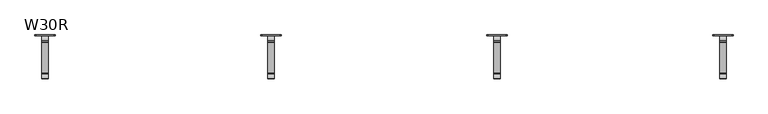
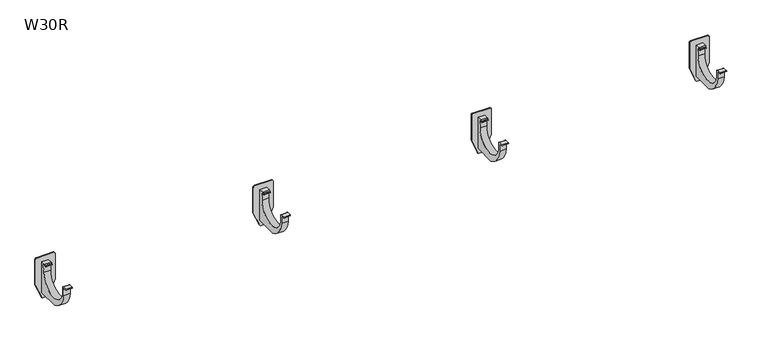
"""IFC4 building model written with IfcOpenShell, lengths in millimetres: proxy geometry, W30R Profil okapowy prosty z rynną : W30R."""

from ifc_helpers import new_model, si_unit, frame, origin, place, context, project, spatial, polyline, circle_curve, source, transform, mapped, element, save
from ifc_brep_helpers import plane_surface, cylinder_surface, revolved_surface, advanced_brep


def w30r_bc3f7cf0(model_context):
    return source(origin(), model_context, "Body", "AdvancedBrep", [
        advanced_brep(
        [(2806.4889281, -43.253125, -67.3579557), (2806.4889281, 31.746875, -67.3579557), (2806.4889281, 33.746875, -48.4650699), (2806.4889281, 28.3326614, -49.0508489), (2806.4889281, 26.9184479, -50.4650625), (2806.4889281, 25.5042343, -49.0508489), (2806.4889281, 26.9184479, -47.6366354), (2806.4889281, 29.746875, -46.4650625), (2806.4889281, 39.746875, -46.4650625), (2806.4889281, 39.746875, -121.4650625), (2806.4889281, -11.253125, -121.4654849), (2806.4889281, -45.753125, -76.6748546), (2806.4889281, -45.753125, -62.0548341), (2806.4889281, -45.753125, -58.4654849), (2806.4889281, -54.253125, -58.4654849), (2806.4889281, -54.253125, -56.4654849), (2806.4889281, -44.253125, -56.4654849), (2806.4889281, -43.253125, -57.4654849), (2821.4889281, -43.253125, -67.3579557), (2821.4889281, -43.253125, -57.4654849), (2821.4889281, -44.253125, -56.4654849), (2821.4889281, -54.253125, -56.4654849), (2821.4889281, -54.253125, -58.4654849), (2821.4889281, -45.753125, -58.4654849), (2821.4889281, -45.753125, -62.0548341), (2821.4889281, -45.753125, -76.6748546), (2821.4889281, -11.253125, -121.4654849), (2821.4889281, 39.746875, -121.4650625), (2821.4889281, 39.746875, -46.4650625), (2821.4889281, 29.746875, -46.4650625), (2821.4889281, 26.9184479, -47.6366354), (2821.4889281, 25.5042343, -49.0508489), (2821.4889281, 26.9184479, -50.4650625), (2821.4889281, 28.3326614, -49.0508489), (2821.4889281, 33.746875, -48.4650699), (2821.4889281, 31.746875, -67.3579557), (2833.4889281, 39.746875, -33.4650625), (2794.4889281, 39.746875, -33.4650625), (2791.4889281, 39.746875, -36.4650625), (2791.4889281, 39.746875, -98.4650625), (2805.7196973, 39.746875, -132.6189087), (2808.4889281, 39.746875, -134.4650625), (2819.4889281, 39.746875, -134.4650625), (2822.2581588, 39.746875, -132.6189087), (2836.4889281, 39.746875, -98.4650625), (2836.4889281, 39.746875, -36.4650625), (2833.4889281, 41.746875, -33.4650625), (2836.4889281, 41.746875, -36.4650625), (2836.4889281, 41.746875, -98.4650625), (2822.2581588, 41.746875, -132.6189087), (2819.4889281, 41.746875, -134.4650625), (2808.4889281, 41.746875, -134.4650625), (2805.7196973, 41.746875, -132.6189087), (2791.4889281, 41.746875, -98.4650625), (2791.4889281, 41.746875, -36.4650625), (2794.4889281, 41.746875, -33.4650625)],
        [
            (0, 1, circle_curve(frame((2806.4889281, -5.753125, -67.3579557), z_axis=(1.0, 0.0, 0.0), x_axis=(0.0, -1.0, 0.0)), 37.5)),
            (1, 2),
            (2, 3, circle_curve(frame((2806.4889281, 32.9075381, -66.0213045), z_axis=(1.0, 0.0, 0.0), x_axis=(0.0, -1.0, 0.0)), 17.5762868)),
            (3, 4),
            (4, 5, circle_curve(frame((2806.4889281, 26.2113411, -49.7579557), z_axis=(-1.0, 0.0, 0.0), x_axis=(0.0, -1.0, 0.0)), 1.0)),
            (5, 6),
            (6, 7, circle_curve(frame((2806.4889281, 29.746875, -50.4650625), z_axis=(-1.0, 0.0, 0.0), x_axis=(0.0, -1.0, 0.0)), 4.0)),
            (7, 8),
            (8, 9),
            (9, 10),
            (10, 11, circle_curve(frame((2806.4889281, 6.9272146, -71.7799373), z_axis=(-1.0, 0.0, 0.0), x_axis=(0.0, -1.0, 0.0)), 52.9072622)),
            (11, 12),
            (12, 13),
            (13, 14),
            (14, 15, circle_curve(frame((2806.4889281, -54.253125, -57.4654849), z_axis=(-1.0, 0.0, 0.0), x_axis=(0.0, -1.0, 0.0)), 1.0)),
            (15, 16),
            (16, 17, circle_curve(frame((2806.4889281, -44.253125, -57.4654849), z_axis=(-1.0, 0.0, 0.0), x_axis=(0.0, -1.0, 0.0)), 1.0)),
            (17, 0),
            (18, 19),
            (19, 20, circle_curve(frame((2821.4889281, -44.253125, -57.4654849), z_axis=(1.0, 0.0, 0.0), x_axis=(0.0, -1.0, 0.0)), 1.0)),
            (20, 21),
            (21, 22, circle_curve(frame((2821.4889281, -54.253125, -57.4654849), z_axis=(1.0, 0.0, 0.0), x_axis=(0.0, -1.0, 0.0)), 1.0)),
            (22, 23),
            (23, 24),
            (24, 25),
            (25, 26, circle_curve(frame((2821.4889281, 6.9272146, -71.7799373), z_axis=(1.0, 0.0, 0.0), x_axis=(0.0, -1.0, 0.0)), 52.9072622)),
            (26, 27),
            (27, 28),
            (28, 29),
            (29, 30, circle_curve(frame((2821.4889281, 29.746875, -50.4650625), z_axis=(1.0, 0.0, 0.0), x_axis=(0.0, -1.0, 0.0)), 4.0)),
            (30, 31),
            (31, 32, circle_curve(frame((2821.4889281, 26.2113411, -49.7579557), z_axis=(1.0, 0.0, 0.0), x_axis=(0.0, -1.0, 0.0)), 1.0)),
            (32, 33),
            (33, 34, circle_curve(frame((2821.4889281, 32.9075381, -66.0213045), z_axis=(-1.0, 0.0, 0.0), x_axis=(0.0, -1.0, 0.0)), 17.5762868)),
            (34, 35),
            (35, 18, circle_curve(frame((2821.4889281, -5.753125, -67.3579557), z_axis=(-1.0, 0.0, 0.0), x_axis=(0.0, -1.0, 0.0)), 37.5)),
            (17, 19),
            (18, 0),
            (16, 20),
            (15, 21),
            (14, 22),
            (13, 23),
            (12, 24),
            (11, 25),
            (10, 26),
            (9, 27),
            (7, 29),
            (28, 8),
            (6, 30),
            (5, 31),
            (4, 32),
            (3, 33),
            (2, 34),
            (1, 35),
            (36, 37),
            (37, 38, circle_curve(frame((2794.4889281, 39.746875, -36.4650625), z_axis=(0.0, -1.0, 0.0), x_axis=(1.0, 0.0, 0.0)), 3.0)),
            (38, 39),
            (39, 40),
            (40, 41, circle_curve(frame((2808.4889281, 39.746875, -131.4650625), z_axis=(0.0, -1.0, 0.0), x_axis=(1.0, 0.0, 0.0)), 3.0)),
            (41, 42),
            (42, 43, circle_curve(frame((2819.4889281, 39.746875, -131.4650625), z_axis=(0.0, -1.0, 0.0), x_axis=(1.0, 0.0, 0.0)), 3.0)),
            (43, 44),
            (44, 45),
            (45, 36, circle_curve(frame((2833.4889281, 39.746875, -36.4650625), z_axis=(0.0, -1.0, 0.0), x_axis=(1.0, 0.0, 0.0)), 3.0)),
            (46, 47, circle_curve(frame((2833.4889281, 41.746875, -36.4650625), z_axis=(0.0, 1.0, 0.0), x_axis=(1.0, 0.0, 0.0)), 3.0)),
            (47, 48),
            (48, 49),
            (49, 50, circle_curve(frame((2819.4889281, 41.746875, -131.4650625), z_axis=(0.0, 1.0, 0.0), x_axis=(1.0, 0.0, 0.0)), 3.0)),
            (50, 51),
            (51, 52, circle_curve(frame((2808.4889281, 41.746875, -131.4650625), z_axis=(0.0, 1.0, 0.0), x_axis=(1.0, 0.0, 0.0)), 3.0)),
            (52, 53),
            (53, 54),
            (54, 55, circle_curve(frame((2794.4889281, 41.746875, -36.4650625), z_axis=(0.0, 1.0, 0.0), x_axis=(1.0, 0.0, 0.0)), 3.0)),
            (55, 46),
            (36, 46),
            (55, 37),
            (54, 38),
            (53, 39),
            (52, 40),
            (51, 41),
            (50, 42),
            (49, 43),
            (48, 44),
            (47, 45),
        ],
        [
            plane_surface(frame((2806.4889281, -43.253125, -57.4654849), z_axis=(-1.0, 0.0, 0.0), x_axis=(0.0, 0.0, -1.0))),
            plane_surface(frame((2821.4889281, -43.253125, -57.4654849), z_axis=(1.0, 0.0, 0.0), x_axis=(0.0, 0.0, 1.0))),
            plane_surface(frame((2821.4889281, -43.253125, -67.3579557), z_axis=(0.0, 1.0, 0.0), x_axis=(-1.0, 0.0, 0.0))),
            cylinder_surface(frame((2806.4889281, -44.253125, -57.4654849), z_axis=(1.0, 0.0, 0.0), x_axis=(0.0, -1.0, 0.0)), 1.0),
            plane_surface(frame((2821.4889281, -44.253125, -56.4654849), z_axis=(0.0, 0.0, 1.0), x_axis=(-1.0, 0.0, 0.0))),
            cylinder_surface(frame((2806.4889281, -54.253125, -57.4654849), z_axis=(1.0, 0.0, 0.0), x_axis=(0.0, -1.0, 0.0)), 1.0),
            plane_surface(frame((2821.4889281, -54.253125, -58.4654849), z_axis=(0.0, 0.0, -1.0), x_axis=(-1.0, 0.0, 0.0))),
            plane_surface(frame((2821.4889281, -45.753125, -58.4654849), z_axis=(0.0, -1.0, 0.0), x_axis=(-1.0, 0.0, 0.0))),
            plane_surface(frame((2821.4889281, -45.753125, -62.0548341), z_axis=(0.0, -1.0, 0.0), x_axis=(-1.0, 0.0, 0.0))),
            cylinder_surface(frame((2806.4889281, 6.9272146, -71.7799373), z_axis=(1.0, 0.0, 0.0), x_axis=(0.0, -1.0, 0.0)), 52.9072622),
            plane_surface(frame((2821.4889281, -11.253125, -121.4654849), z_axis=(0.0, 8.283194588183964e-06, -0.9999999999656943), x_axis=(-1.0, 0.0, 0.0))),
            plane_surface(frame((2821.4889281, 40.7901639, -46.4650625), z_axis=(0.0, 0.0, 1.0), x_axis=(-1.0, 0.0, 0.0))),
            cylinder_surface(frame((2806.4889281, 29.746875, -50.4650625), z_axis=(1.0, 0.0, 0.0), x_axis=(0.0, -1.0, 0.0)), 4.0),
            plane_surface(frame((2821.4889281, 26.9184479, -47.6366354), z_axis=(0.0, -0.7071067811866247, 0.7071067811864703), x_axis=(-1.0, 0.0, 0.0))),
            cylinder_surface(frame((2806.4889281, 26.2113411, -49.7579557), z_axis=(1.0, 0.0, 0.0), x_axis=(0.0, -1.0, 0.0)), 1.0),
            plane_surface(frame((2821.4889281, 26.9184479, -50.4650625), z_axis=(0.0, 0.7071067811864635, -0.7071067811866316), x_axis=(-1.0, 0.0, 0.0))),
            revolved_surface(polyline([(2806.4889281, 15.331251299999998, -66.0213045), (2821.4889281, 15.331251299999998, -66.0213045)]), (2806.4889281, 32.9075381, -66.0213045), (-1.0, 0.0, 0.0)),
            plane_surface(frame((2821.4889281, 33.746875, -48.4650699), z_axis=(0.0, -0.9944434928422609, 0.10527174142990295), x_axis=(-1.0, 0.0, 0.0))),
            revolved_surface(polyline([(2806.4889281, -43.253125, -67.3579557), (2821.4889281, -43.253125, -67.3579557)]), (2806.4889281, -5.753125, -67.3579557), (-1.0, 0.0, 0.0)),
            plane_surface(frame((2794.4889281, 39.746875, -33.4650625), z_axis=(0.0, -1.0, 0.0), x_axis=(-1.0, 0.0, 0.0))),
            plane_surface(frame((2794.4889281, 41.746875, -33.4650625), z_axis=(0.0, 1.0, 0.0), x_axis=(1.0, 0.0, 0.0))),
            plane_surface(frame((2833.4889281, 39.746875, -33.4650625), z_axis=(0.0, 0.0, 1.0), x_axis=(0.0, 1.0, 0.0))),
            cylinder_surface(frame((2794.4889281, 41.746875, -36.4650625), z_axis=(0.0, -1.0, 0.0), x_axis=(1.0, 0.0, 0.0)), 3.0),
            plane_surface(frame((2791.4889281, 39.746875, -36.4650625), z_axis=(-1.0, 0.0, 0.0), x_axis=(0.0, 1.0, 0.0))),
            plane_surface(frame((2791.4889281, 39.746875, -98.4650625), z_axis=(-0.9230769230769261, 0.0, -0.38461538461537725), x_axis=(0.0, 1.0, 0.0))),
            cylinder_surface(frame((2808.4889281, 41.746875, -131.4650625), z_axis=(0.0, -1.0, 0.0), x_axis=(1.0, 0.0, 0.0)), 3.0),
            plane_surface(frame((2808.4889281, 39.746875, -134.4650625), z_axis=(0.0, 0.0, -1.0), x_axis=(0.0, 1.0, 0.0))),
            cylinder_surface(frame((2819.4889281, 41.746875, -131.4650625), z_axis=(0.0, -1.0, 0.0), x_axis=(1.0, 0.0, 0.0)), 3.0),
            plane_surface(frame((2822.2581588, 39.746875, -132.6189087), z_axis=(0.9230769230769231, 0.0, -0.3846153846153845), x_axis=(0.0, 1.0, 0.0))),
            plane_surface(frame((2836.4889281, 39.746875, -98.4650625), z_axis=(1.0, 0.0, 0.0), x_axis=(0.0, 1.0, 0.0))),
            cylinder_surface(frame((2833.4889281, 41.746875, -36.4650625), z_axis=(0.0, -1.0, 0.0), x_axis=(1.0, 0.0, 0.0)), 3.0),
        ],
        [
            (0, [[1, 2, 3, 4, 5, 6, 7, 8, 9, 10, 11, 12, 13, 14, 15, 16, 17, 18]]),
            (1, [[19, 20, 21, 22, 23, 24, 25, 26, 27, 28, 29, 30, 31, 32, 33, 34, 35, 36]]),
            (2, [[-18, 37, -19, 38]]),
            (3, [[-17, 39, -20, -37]]),
            (4, [[-16, 40, -21, -39]]),
            (5, [[-15, 41, -22, -40]]),
            (6, [[-14, 42, -23, -41]]),
            (7, [[-13, 43, -24, -42]]),
            (8, [[-12, 44, -25, -43]]),
            (9, [[-11, 45, -26, -44]]),
            (10, [[-45, -10, 46, -27]]),
            (11, [[47, -29, 48, -8]]),
            (12, [[-7, 49, -30, -47]]),
            (13, [[-6, 50, -31, -49]]),
            (14, [[-5, 51, -32, -50]]),
            (15, [[-4, 52, -33, -51]]),
            (16, [[-3, 53, -34, -52]]),
            (17, [[-2, 54, -35, -53]]),
            (18, [[-1, -38, -36, -54]]),
            (19, [[55, 56, 57, 58, 59, 60, 61, 62, 63, 64], [-9, -48, -28, -46]]),
            (20, [[65, 66, 67, 68, 69, 70, 71, 72, 73, 74]]),
            (21, [[-55, 75, -74, 76]]),
            (22, [[-56, -76, -73, 77]]),
            (23, [[-57, -77, -72, 78]]),
            (24, [[-58, -78, -71, 79]]),
            (25, [[-59, -79, -70, 80]]),
            (26, [[-60, -80, -69, 81]]),
            (27, [[-61, -81, -68, 82]]),
            (28, [[-62, -82, -67, 83]]),
            (29, [[-63, -83, -66, 84]]),
            (30, [[-64, -84, -65, -75]]),
        ],
    ),
        advanced_brep(
        [(2306.4889281, -43.253125, -67.3579557), (2306.4889281, 31.746875, -67.3579557), (2306.4889281, 33.746875, -48.4650699), (2306.4889281, 28.3326614, -49.0508489), (2306.4889281, 26.9184479, -50.4650625), (2306.4889281, 25.5042343, -49.0508489), (2306.4889281, 26.9184479, -47.6366354), (2306.4889281, 29.746875, -46.4650625), (2306.4889281, 39.746875, -46.4650625), (2306.4889281, 39.746875, -121.4650625), (2306.4889281, -11.253125, -121.4654849), (2306.4889281, -45.753125, -76.6748546), (2306.4889281, -45.753125, -62.0548341), (2306.4889281, -45.753125, -58.4654849), (2306.4889281, -54.253125, -58.4654849), (2306.4889281, -54.253125, -56.4654849), (2306.4889281, -44.253125, -56.4654849), (2306.4889281, -43.253125, -57.4654849), (2321.4889281, -43.253125, -67.3579557), (2321.4889281, -43.253125, -57.4654849), (2321.4889281, -44.253125, -56.4654849), (2321.4889281, -54.253125, -56.4654849), (2321.4889281, -54.253125, -58.4654849), (2321.4889281, -45.753125, -58.4654849), (2321.4889281, -45.753125, -62.0548341), (2321.4889281, -45.753125, -76.6748546), (2321.4889281, -11.253125, -121.4654849), (2321.4889281, 39.746875, -121.4650625), (2321.4889281, 39.746875, -46.4650625), (2321.4889281, 29.746875, -46.4650625), (2321.4889281, 26.9184479, -47.6366354), (2321.4889281, 25.5042343, -49.0508489), (2321.4889281, 26.9184479, -50.4650625), (2321.4889281, 28.3326614, -49.0508489), (2321.4889281, 33.746875, -48.4650699), (2321.4889281, 31.746875, -67.3579557), (2333.4889281, 39.746875, -33.4650625), (2294.4889281, 39.746875, -33.4650625), (2291.4889281, 39.746875, -36.4650625), (2291.4889281, 39.746875, -98.4650625), (2305.7196973, 39.746875, -132.6189087), (2308.4889281, 39.746875, -134.4650625), (2319.4889281, 39.746875, -134.4650625), (2322.2581588, 39.746875, -132.6189087), (2336.4889281, 39.746875, -98.4650625), (2336.4889281, 39.746875, -36.4650625), (2333.4889281, 41.746875, -33.4650625), (2336.4889281, 41.746875, -36.4650625), (2336.4889281, 41.746875, -98.4650625), (2322.2581588, 41.746875, -132.6189087), (2319.4889281, 41.746875, -134.4650625), (2308.4889281, 41.746875, -134.4650625), (2305.7196973, 41.746875, -132.6189087), (2291.4889281, 41.746875, -98.4650625), (2291.4889281, 41.746875, -36.4650625), (2294.4889281, 41.746875, -33.4650625)],
        [
            (0, 1, circle_curve(frame((2306.4889281, -5.753125, -67.3579557), z_axis=(1.0, 0.0, 0.0), x_axis=(0.0, -1.0, 0.0)), 37.5)),
            (1, 2),
            (2, 3, circle_curve(frame((2306.4889281, 32.9075381, -66.0213045), z_axis=(1.0, 0.0, 0.0), x_axis=(0.0, -1.0, 0.0)), 17.5762868)),
            (3, 4),
            (4, 5, circle_curve(frame((2306.4889281, 26.2113411, -49.7579557), z_axis=(-1.0, 0.0, 0.0), x_axis=(0.0, -1.0, 0.0)), 1.0)),
            (5, 6),
            (6, 7, circle_curve(frame((2306.4889281, 29.746875, -50.4650625), z_axis=(-1.0, 0.0, 0.0), x_axis=(0.0, -1.0, 0.0)), 4.0)),
            (7, 8),
            (8, 9),
            (9, 10),
            (10, 11, circle_curve(frame((2306.4889281, 6.9272146, -71.7799373), z_axis=(-1.0, 0.0, 0.0), x_axis=(0.0, -1.0, 0.0)), 52.9072622)),
            (11, 12),
            (12, 13),
            (13, 14),
            (14, 15, circle_curve(frame((2306.4889281, -54.253125, -57.4654849), z_axis=(-1.0, 0.0, 0.0), x_axis=(0.0, -1.0, 0.0)), 1.0)),
            (15, 16),
            (16, 17, circle_curve(frame((2306.4889281, -44.253125, -57.4654849), z_axis=(-1.0, 0.0, 0.0), x_axis=(0.0, -1.0, 0.0)), 1.0)),
            (17, 0),
            (18, 19),
            (19, 20, circle_curve(frame((2321.4889281, -44.253125, -57.4654849), z_axis=(1.0, 0.0, 0.0), x_axis=(0.0, -1.0, 0.0)), 1.0)),
            (20, 21),
            (21, 22, circle_curve(frame((2321.4889281, -54.253125, -57.4654849), z_axis=(1.0, 0.0, 0.0), x_axis=(0.0, -1.0, 0.0)), 1.0)),
            (22, 23),
            (23, 24),
            (24, 25),
            (25, 26, circle_curve(frame((2321.4889281, 6.9272146, -71.7799373), z_axis=(1.0, 0.0, 0.0), x_axis=(0.0, -1.0, 0.0)), 52.9072622)),
            (26, 27),
            (27, 28),
            (28, 29),
            (29, 30, circle_curve(frame((2321.4889281, 29.746875, -50.4650625), z_axis=(1.0, 0.0, 0.0), x_axis=(0.0, -1.0, 0.0)), 4.0)),
            (30, 31),
            (31, 32, circle_curve(frame((2321.4889281, 26.2113411, -49.7579557), z_axis=(1.0, 0.0, 0.0), x_axis=(0.0, -1.0, 0.0)), 1.0)),
            (32, 33),
            (33, 34, circle_curve(frame((2321.4889281, 32.9075381, -66.0213045), z_axis=(-1.0, 0.0, 0.0), x_axis=(0.0, -1.0, 0.0)), 17.5762868)),
            (34, 35),
            (35, 18, circle_curve(frame((2321.4889281, -5.753125, -67.3579557), z_axis=(-1.0, 0.0, 0.0), x_axis=(0.0, -1.0, 0.0)), 37.5)),
            (17, 19),
            (18, 0),
            (16, 20),
            (15, 21),
            (14, 22),
            (13, 23),
            (12, 24),
            (11, 25),
            (10, 26),
            (9, 27),
            (7, 29),
            (28, 8),
            (6, 30),
            (5, 31),
            (4, 32),
            (3, 33),
            (2, 34),
            (1, 35),
            (36, 37),
            (37, 38, circle_curve(frame((2294.4889281, 39.746875, -36.4650625), z_axis=(0.0, -1.0, 0.0), x_axis=(1.0, 0.0, 0.0)), 3.0)),
            (38, 39),
            (39, 40),
            (40, 41, circle_curve(frame((2308.4889281, 39.746875, -131.4650625), z_axis=(0.0, -1.0, 0.0), x_axis=(1.0, 0.0, 0.0)), 3.0)),
            (41, 42),
            (42, 43, circle_curve(frame((2319.4889281, 39.746875, -131.4650625), z_axis=(0.0, -1.0, 0.0), x_axis=(1.0, 0.0, 0.0)), 3.0)),
            (43, 44),
            (44, 45),
            (45, 36, circle_curve(frame((2333.4889281, 39.746875, -36.4650625), z_axis=(0.0, -1.0, 0.0), x_axis=(1.0, 0.0, 0.0)), 3.0)),
            (46, 47, circle_curve(frame((2333.4889281, 41.746875, -36.4650625), z_axis=(0.0, 1.0, 0.0), x_axis=(1.0, 0.0, 0.0)), 3.0)),
            (47, 48),
            (48, 49),
            (49, 50, circle_curve(frame((2319.4889281, 41.746875, -131.4650625), z_axis=(0.0, 1.0, 0.0), x_axis=(1.0, 0.0, 0.0)), 3.0)),
            (50, 51),
            (51, 52, circle_curve(frame((2308.4889281, 41.746875, -131.4650625), z_axis=(0.0, 1.0, 0.0), x_axis=(1.0, 0.0, 0.0)), 3.0)),
            (52, 53),
            (53, 54),
            (54, 55, circle_curve(frame((2294.4889281, 41.746875, -36.4650625), z_axis=(0.0, 1.0, 0.0), x_axis=(1.0, 0.0, 0.0)), 3.0)),
            (55, 46),
            (36, 46),
            (55, 37),
            (54, 38),
            (53, 39),
            (52, 40),
            (51, 41),
            (50, 42),
            (49, 43),
            (48, 44),
            (47, 45),
        ],
        [
            plane_surface(frame((2306.4889281, -43.253125, -57.4654849), z_axis=(-1.0, 0.0, 0.0), x_axis=(0.0, 0.0, -1.0))),
            plane_surface(frame((2321.4889281, -43.253125, -57.4654849), z_axis=(1.0, 0.0, 0.0), x_axis=(0.0, 0.0, 1.0))),
            plane_surface(frame((2321.4889281, -43.253125, -67.3579557), z_axis=(0.0, 1.0, 0.0), x_axis=(-1.0, 0.0, 0.0))),
            cylinder_surface(frame((2306.4889281, -44.253125, -57.4654849), z_axis=(1.0, 0.0, 0.0), x_axis=(0.0, -1.0, 0.0)), 1.0),
            plane_surface(frame((2321.4889281, -44.253125, -56.4654849), z_axis=(0.0, 0.0, 1.0), x_axis=(-1.0, 0.0, 0.0))),
            cylinder_surface(frame((2306.4889281, -54.253125, -57.4654849), z_axis=(1.0, 0.0, 0.0), x_axis=(0.0, -1.0, 0.0)), 1.0),
            plane_surface(frame((2321.4889281, -54.253125, -58.4654849), z_axis=(0.0, 0.0, -1.0), x_axis=(-1.0, 0.0, 0.0))),
            plane_surface(frame((2321.4889281, -45.753125, -58.4654849), z_axis=(0.0, -1.0, 0.0), x_axis=(-1.0, 0.0, 0.0))),
            plane_surface(frame((2321.4889281, -45.753125, -62.0548341), z_axis=(0.0, -1.0, 0.0), x_axis=(-1.0, 0.0, 0.0))),
            cylinder_surface(frame((2306.4889281, 6.9272146, -71.7799373), z_axis=(1.0, 0.0, 0.0), x_axis=(0.0, -1.0, 0.0)), 52.9072622),
            plane_surface(frame((2321.4889281, -11.253125, -121.4654849), z_axis=(0.0, 8.283194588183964e-06, -0.9999999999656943), x_axis=(-1.0, 0.0, 0.0))),
            plane_surface(frame((2321.4889281, 40.7901639, -46.4650625), z_axis=(0.0, 0.0, 1.0), x_axis=(-1.0, 0.0, 0.0))),
            cylinder_surface(frame((2306.4889281, 29.746875, -50.4650625), z_axis=(1.0, 0.0, 0.0), x_axis=(0.0, -1.0, 0.0)), 4.0),
            plane_surface(frame((2321.4889281, 26.9184479, -47.6366354), z_axis=(0.0, -0.7071067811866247, 0.7071067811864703), x_axis=(-1.0, 0.0, 0.0))),
            cylinder_surface(frame((2306.4889281, 26.2113411, -49.7579557), z_axis=(1.0, 0.0, 0.0), x_axis=(0.0, -1.0, 0.0)), 1.0),
            plane_surface(frame((2321.4889281, 26.9184479, -50.4650625), z_axis=(0.0, 0.7071067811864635, -0.7071067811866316), x_axis=(-1.0, 0.0, 0.0))),
            revolved_surface(polyline([(2306.4889281, 15.331251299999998, -66.0213045), (2321.4889281, 15.331251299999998, -66.0213045)]), (2306.4889281, 32.9075381, -66.0213045), (-1.0, 0.0, 0.0)),
            plane_surface(frame((2321.4889281, 33.746875, -48.4650699), z_axis=(0.0, -0.9944434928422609, 0.10527174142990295), x_axis=(-1.0, 0.0, 0.0))),
            revolved_surface(polyline([(2306.4889281, -43.253125, -67.3579557), (2321.4889281, -43.253125, -67.3579557)]), (2306.4889281, -5.753125, -67.3579557), (-1.0, 0.0, 0.0)),
            plane_surface(frame((2294.4889281, 39.746875, -33.4650625), z_axis=(0.0, -1.0, 0.0), x_axis=(-1.0, 0.0, 0.0))),
            plane_surface(frame((2294.4889281, 41.746875, -33.4650625), z_axis=(0.0, 1.0, 0.0), x_axis=(1.0, 0.0, 0.0))),
            plane_surface(frame((2333.4889281, 39.746875, -33.4650625), z_axis=(0.0, 0.0, 1.0), x_axis=(0.0, 1.0, 0.0))),
            cylinder_surface(frame((2294.4889281, 41.746875, -36.4650625), z_axis=(0.0, -1.0, 0.0), x_axis=(1.0, 0.0, 0.0)), 3.0),
            plane_surface(frame((2291.4889281, 39.746875, -36.4650625), z_axis=(-1.0, 0.0, 0.0), x_axis=(0.0, 1.0, 0.0))),
            plane_surface(frame((2291.4889281, 39.746875, -98.4650625), z_axis=(-0.9230769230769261, 0.0, -0.38461538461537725), x_axis=(0.0, 1.0, 0.0))),
            cylinder_surface(frame((2308.4889281, 41.746875, -131.4650625), z_axis=(0.0, -1.0, 0.0), x_axis=(1.0, 0.0, 0.0)), 3.0),
            plane_surface(frame((2308.4889281, 39.746875, -134.4650625), z_axis=(0.0, 0.0, -1.0), x_axis=(0.0, 1.0, 0.0))),
            cylinder_surface(frame((2319.4889281, 41.746875, -131.4650625), z_axis=(0.0, -1.0, 0.0), x_axis=(1.0, 0.0, 0.0)), 3.0),
            plane_surface(frame((2322.2581588, 39.746875, -132.6189087), z_axis=(0.9230769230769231, 0.0, -0.3846153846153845), x_axis=(0.0, 1.0, 0.0))),
            plane_surface(frame((2336.4889281, 39.746875, -98.4650625), z_axis=(1.0, 0.0, 0.0), x_axis=(0.0, 1.0, 0.0))),
            cylinder_surface(frame((2333.4889281, 41.746875, -36.4650625), z_axis=(0.0, -1.0, 0.0), x_axis=(1.0, 0.0, 0.0)), 3.0),
        ],
        [
            (0, [[1, 2, 3, 4, 5, 6, 7, 8, 9, 10, 11, 12, 13, 14, 15, 16, 17, 18]]),
            (1, [[19, 20, 21, 22, 23, 24, 25, 26, 27, 28, 29, 30, 31, 32, 33, 34, 35, 36]]),
            (2, [[-18, 37, -19, 38]]),
            (3, [[-17, 39, -20, -37]]),
            (4, [[-16, 40, -21, -39]]),
            (5, [[-15, 41, -22, -40]]),
            (6, [[-14, 42, -23, -41]]),
            (7, [[-13, 43, -24, -42]]),
            (8, [[-12, 44, -25, -43]]),
            (9, [[-11, 45, -26, -44]]),
            (10, [[-45, -10, 46, -27]]),
            (11, [[47, -29, 48, -8]]),
            (12, [[-7, 49, -30, -47]]),
            (13, [[-6, 50, -31, -49]]),
            (14, [[-5, 51, -32, -50]]),
            (15, [[-4, 52, -33, -51]]),
            (16, [[-3, 53, -34, -52]]),
            (17, [[-2, 54, -35, -53]]),
            (18, [[-1, -38, -36, -54]]),
            (19, [[55, 56, 57, 58, 59, 60, 61, 62, 63, 64], [-9, -48, -28, -46]]),
            (20, [[65, 66, 67, 68, 69, 70, 71, 72, 73, 74]]),
            (21, [[-55, 75, -74, 76]]),
            (22, [[-56, -76, -73, 77]]),
            (23, [[-57, -77, -72, 78]]),
            (24, [[-58, -78, -71, 79]]),
            (25, [[-59, -79, -70, 80]]),
            (26, [[-60, -80, -69, 81]]),
            (27, [[-61, -81, -68, 82]]),
            (28, [[-62, -82, -67, 83]]),
            (29, [[-63, -83, -66, 84]]),
            (30, [[-64, -84, -65, -75]]),
        ],
    ),
        advanced_brep(
        [(1806.4889281, -43.253125, -67.3579557), (1806.4889281, 31.746875, -67.3579557), (1806.4889281, 33.746875, -48.4650699), (1806.4889281, 28.3326614, -49.0508489), (1806.4889281, 26.9184479, -50.4650625), (1806.4889281, 25.5042343, -49.0508489), (1806.4889281, 26.9184479, -47.6366354), (1806.4889281, 29.746875, -46.4650625), (1806.4889281, 39.746875, -46.4650625), (1806.4889281, 39.746875, -121.4650625), (1806.4889281, -11.253125, -121.4654849), (1806.4889281, -45.753125, -76.6748546), (1806.4889281, -45.753125, -62.0548341), (1806.4889281, -45.753125, -58.4654849), (1806.4889281, -54.253125, -58.4654849), (1806.4889281, -54.253125, -56.4654849), (1806.4889281, -44.253125, -56.4654849), (1806.4889281, -43.253125, -57.4654849), (1821.4889281, -43.253125, -67.3579557), (1821.4889281, -43.253125, -57.4654849), (1821.4889281, -44.253125, -56.4654849), (1821.4889281, -54.253125, -56.4654849), (1821.4889281, -54.253125, -58.4654849), (1821.4889281, -45.753125, -58.4654849), (1821.4889281, -45.753125, -62.0548341), (1821.4889281, -45.753125, -76.6748546), (1821.4889281, -11.253125, -121.4654849), (1821.4889281, 39.746875, -121.4650625), (1821.4889281, 39.746875, -46.4650625), (1821.4889281, 29.746875, -46.4650625), (1821.4889281, 26.9184479, -47.6366354), (1821.4889281, 25.5042343, -49.0508489), (1821.4889281, 26.9184479, -50.4650625), (1821.4889281, 28.3326614, -49.0508489), (1821.4889281, 33.746875, -48.4650699), (1821.4889281, 31.746875, -67.3579557), (1833.4889281, 39.746875, -33.4650625), (1794.4889281, 39.746875, -33.4650625), (1791.4889281, 39.746875, -36.4650625), (1791.4889281, 39.746875, -98.4650625), (1805.7196973, 39.746875, -132.6189087), (1808.4889281, 39.746875, -134.4650625), (1819.4889281, 39.746875, -134.4650625), (1822.2581588, 39.746875, -132.6189087), (1836.4889281, 39.746875, -98.4650625), (1836.4889281, 39.746875, -36.4650625), (1833.4889281, 41.746875, -33.4650625), (1836.4889281, 41.746875, -36.4650625), (1836.4889281, 41.746875, -98.4650625), (1822.2581588, 41.746875, -132.6189087), (1819.4889281, 41.746875, -134.4650625), (1808.4889281, 41.746875, -134.4650625), (1805.7196973, 41.746875, -132.6189087), (1791.4889281, 41.746875, -98.4650625), (1791.4889281, 41.746875, -36.4650625), (1794.4889281, 41.746875, -33.4650625)],
        [
            (0, 1, circle_curve(frame((1806.4889281, -5.753125, -67.3579557), z_axis=(1.0, 0.0, 0.0), x_axis=(0.0, -1.0, 0.0)), 37.5)),
            (1, 2),
            (2, 3, circle_curve(frame((1806.4889281, 32.9075381, -66.0213045), z_axis=(1.0, 0.0, 0.0), x_axis=(0.0, -1.0, 0.0)), 17.5762868)),
            (3, 4),
            (4, 5, circle_curve(frame((1806.4889281, 26.2113411, -49.7579557), z_axis=(-1.0, 0.0, 0.0), x_axis=(0.0, -1.0, 0.0)), 1.0)),
            (5, 6),
            (6, 7, circle_curve(frame((1806.4889281, 29.746875, -50.4650625), z_axis=(-1.0, 0.0, 0.0), x_axis=(0.0, -1.0, 0.0)), 4.0)),
            (7, 8),
            (8, 9),
            (9, 10),
            (10, 11, circle_curve(frame((1806.4889281, 6.9272146, -71.7799373), z_axis=(-1.0, 0.0, 0.0), x_axis=(0.0, -1.0, 0.0)), 52.9072622)),
            (11, 12),
            (12, 13),
            (13, 14),
            (14, 15, circle_curve(frame((1806.4889281, -54.253125, -57.4654849), z_axis=(-1.0, 0.0, 0.0), x_axis=(0.0, -1.0, 0.0)), 1.0)),
            (15, 16),
            (16, 17, circle_curve(frame((1806.4889281, -44.253125, -57.4654849), z_axis=(-1.0, 0.0, 0.0), x_axis=(0.0, -1.0, 0.0)), 1.0)),
            (17, 0),
            (18, 19),
            (19, 20, circle_curve(frame((1821.4889281, -44.253125, -57.4654849), z_axis=(1.0, 0.0, 0.0), x_axis=(0.0, -1.0, 0.0)), 1.0)),
            (20, 21),
            (21, 22, circle_curve(frame((1821.4889281, -54.253125, -57.4654849), z_axis=(1.0, 0.0, 0.0), x_axis=(0.0, -1.0, 0.0)), 1.0)),
            (22, 23),
            (23, 24),
            (24, 25),
            (25, 26, circle_curve(frame((1821.4889281, 6.9272146, -71.7799373), z_axis=(1.0, 0.0, 0.0), x_axis=(0.0, -1.0, 0.0)), 52.9072622)),
            (26, 27),
            (27, 28),
            (28, 29),
            (29, 30, circle_curve(frame((1821.4889281, 29.746875, -50.4650625), z_axis=(1.0, 0.0, 0.0), x_axis=(0.0, -1.0, 0.0)), 4.0)),
            (30, 31),
            (31, 32, circle_curve(frame((1821.4889281, 26.2113411, -49.7579557), z_axis=(1.0, 0.0, 0.0), x_axis=(0.0, -1.0, 0.0)), 1.0)),
            (32, 33),
            (33, 34, circle_curve(frame((1821.4889281, 32.9075381, -66.0213045), z_axis=(-1.0, 0.0, 0.0), x_axis=(0.0, -1.0, 0.0)), 17.5762868)),
            (34, 35),
            (35, 18, circle_curve(frame((1821.4889281, -5.753125, -67.3579557), z_axis=(-1.0, 0.0, 0.0), x_axis=(0.0, -1.0, 0.0)), 37.5)),
            (17, 19),
            (18, 0),
            (16, 20),
            (15, 21),
            (14, 22),
            (13, 23),
            (12, 24),
            (11, 25),
            (10, 26),
            (9, 27),
            (7, 29),
            (28, 8),
            (6, 30),
            (5, 31),
            (4, 32),
            (3, 33),
            (2, 34),
            (1, 35),
            (36, 37),
            (37, 38, circle_curve(frame((1794.4889281, 39.746875, -36.4650625), z_axis=(0.0, -1.0, 0.0), x_axis=(1.0, 0.0, 0.0)), 3.0)),
            (38, 39),
            (39, 40),
            (40, 41, circle_curve(frame((1808.4889281, 39.746875, -131.4650625), z_axis=(0.0, -1.0, 0.0), x_axis=(1.0, 0.0, 0.0)), 3.0)),
            (41, 42),
            (42, 43, circle_curve(frame((1819.4889281, 39.746875, -131.4650625), z_axis=(0.0, -1.0, 0.0), x_axis=(1.0, 0.0, 0.0)), 3.0)),
            (43, 44),
            (44, 45),
            (45, 36, circle_curve(frame((1833.4889281, 39.746875, -36.4650625), z_axis=(0.0, -1.0, 0.0), x_axis=(1.0, 0.0, 0.0)), 3.0)),
            (46, 47, circle_curve(frame((1833.4889281, 41.746875, -36.4650625), z_axis=(0.0, 1.0, 0.0), x_axis=(1.0, 0.0, 0.0)), 3.0)),
            (47, 48),
            (48, 49),
            (49, 50, circle_curve(frame((1819.4889281, 41.746875, -131.4650625), z_axis=(0.0, 1.0, 0.0), x_axis=(1.0, 0.0, 0.0)), 3.0)),
            (50, 51),
            (51, 52, circle_curve(frame((1808.4889281, 41.746875, -131.4650625), z_axis=(0.0, 1.0, 0.0), x_axis=(1.0, 0.0, 0.0)), 3.0)),
            (52, 53),
            (53, 54),
            (54, 55, circle_curve(frame((1794.4889281, 41.746875, -36.4650625), z_axis=(0.0, 1.0, 0.0), x_axis=(1.0, 0.0, 0.0)), 3.0)),
            (55, 46),
            (36, 46),
            (55, 37),
            (54, 38),
            (53, 39),
            (52, 40),
            (51, 41),
            (50, 42),
            (49, 43),
            (48, 44),
            (47, 45),
        ],
        [
            plane_surface(frame((1806.4889281, -43.253125, -57.4654849), z_axis=(-1.0, 0.0, 0.0), x_axis=(0.0, 0.0, -1.0))),
            plane_surface(frame((1821.4889281, -43.253125, -57.4654849), z_axis=(1.0, 0.0, 0.0), x_axis=(0.0, 0.0, 1.0))),
            plane_surface(frame((1821.4889281, -43.253125, -67.3579557), z_axis=(0.0, 1.0, 0.0), x_axis=(-1.0, 0.0, 0.0))),
            cylinder_surface(frame((1806.4889281, -44.253125, -57.4654849), z_axis=(1.0, 0.0, 0.0), x_axis=(0.0, -1.0, 0.0)), 1.0),
            plane_surface(frame((1821.4889281, -44.253125, -56.4654849), z_axis=(0.0, 0.0, 1.0), x_axis=(-1.0, 0.0, 0.0))),
            cylinder_surface(frame((1806.4889281, -54.253125, -57.4654849), z_axis=(1.0, 0.0, 0.0), x_axis=(0.0, -1.0, 0.0)), 1.0),
            plane_surface(frame((1821.4889281, -54.253125, -58.4654849), z_axis=(0.0, 0.0, -1.0), x_axis=(-1.0, 0.0, 0.0))),
            plane_surface(frame((1821.4889281, -45.753125, -58.4654849), z_axis=(0.0, -1.0, 0.0), x_axis=(-1.0, 0.0, 0.0))),
            plane_surface(frame((1821.4889281, -45.753125, -62.0548341), z_axis=(0.0, -1.0, 0.0), x_axis=(-1.0, 0.0, 0.0))),
            cylinder_surface(frame((1806.4889281, 6.9272146, -71.7799373), z_axis=(1.0, 0.0, 0.0), x_axis=(0.0, -1.0, 0.0)), 52.9072622),
            plane_surface(frame((1821.4889281, -11.253125, -121.4654849), z_axis=(0.0, 8.283194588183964e-06, -0.9999999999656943), x_axis=(-1.0, 0.0, 0.0))),
            plane_surface(frame((1821.4889281, 40.7901639, -46.4650625), z_axis=(0.0, 0.0, 1.0), x_axis=(-1.0, 0.0, 0.0))),
            cylinder_surface(frame((1806.4889281, 29.746875, -50.4650625), z_axis=(1.0, 0.0, 0.0), x_axis=(0.0, -1.0, 0.0)), 4.0),
            plane_surface(frame((1821.4889281, 26.9184479, -47.6366354), z_axis=(0.0, -0.7071067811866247, 0.7071067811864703), x_axis=(-1.0, 0.0, 0.0))),
            cylinder_surface(frame((1806.4889281, 26.2113411, -49.7579557), z_axis=(1.0, 0.0, 0.0), x_axis=(0.0, -1.0, 0.0)), 1.0),
            plane_surface(frame((1821.4889281, 26.9184479, -50.4650625), z_axis=(0.0, 0.7071067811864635, -0.7071067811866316), x_axis=(-1.0, 0.0, 0.0))),
            revolved_surface(polyline([(1806.4889281, 15.331251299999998, -66.0213045), (1821.4889281, 15.331251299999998, -66.0213045)]), (1806.4889281, 32.9075381, -66.0213045), (-1.0, 0.0, 0.0)),
            plane_surface(frame((1821.4889281, 33.746875, -48.4650699), z_axis=(0.0, -0.9944434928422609, 0.10527174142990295), x_axis=(-1.0, 0.0, 0.0))),
            revolved_surface(polyline([(1806.4889281, -43.253125, -67.3579557), (1821.4889281, -43.253125, -67.3579557)]), (1806.4889281, -5.753125, -67.3579557), (-1.0, 0.0, 0.0)),
            plane_surface(frame((1794.4889281, 39.746875, -33.4650625), z_axis=(0.0, -1.0, 0.0), x_axis=(-1.0, 0.0, 0.0))),
            plane_surface(frame((1794.4889281, 41.746875, -33.4650625), z_axis=(0.0, 1.0, 0.0), x_axis=(1.0, 0.0, 0.0))),
            plane_surface(frame((1833.4889281, 39.746875, -33.4650625), z_axis=(0.0, 0.0, 1.0), x_axis=(0.0, 1.0, 0.0))),
            cylinder_surface(frame((1794.4889281, 41.746875, -36.4650625), z_axis=(0.0, -1.0, 0.0), x_axis=(1.0, 0.0, 0.0)), 3.0),
            plane_surface(frame((1791.4889281, 39.746875, -36.4650625), z_axis=(-1.0, 0.0, 0.0), x_axis=(0.0, 1.0, 0.0))),
            plane_surface(frame((1791.4889281, 39.746875, -98.4650625), z_axis=(-0.9230769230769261, 0.0, -0.38461538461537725), x_axis=(0.0, 1.0, 0.0))),
            cylinder_surface(frame((1808.4889281, 41.746875, -131.4650625), z_axis=(0.0, -1.0, 0.0), x_axis=(1.0, 0.0, 0.0)), 3.0),
            plane_surface(frame((1808.4889281, 39.746875, -134.4650625), z_axis=(0.0, 0.0, -1.0), x_axis=(0.0, 1.0, 0.0))),
            cylinder_surface(frame((1819.4889281, 41.746875, -131.4650625), z_axis=(0.0, -1.0, 0.0), x_axis=(1.0, 0.0, 0.0)), 3.0),
            plane_surface(frame((1822.2581588, 39.746875, -132.6189087), z_axis=(0.9230769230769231, 0.0, -0.3846153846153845), x_axis=(0.0, 1.0, 0.0))),
            plane_surface(frame((1836.4889281, 39.746875, -98.4650625), z_axis=(1.0, 0.0, 0.0), x_axis=(0.0, 1.0, 0.0))),
            cylinder_surface(frame((1833.4889281, 41.746875, -36.4650625), z_axis=(0.0, -1.0, 0.0), x_axis=(1.0, 0.0, 0.0)), 3.0),
        ],
        [
            (0, [[1, 2, 3, 4, 5, 6, 7, 8, 9, 10, 11, 12, 13, 14, 15, 16, 17, 18]]),
            (1, [[19, 20, 21, 22, 23, 24, 25, 26, 27, 28, 29, 30, 31, 32, 33, 34, 35, 36]]),
            (2, [[-18, 37, -19, 38]]),
            (3, [[-17, 39, -20, -37]]),
            (4, [[-16, 40, -21, -39]]),
            (5, [[-15, 41, -22, -40]]),
            (6, [[-14, 42, -23, -41]]),
            (7, [[-13, 43, -24, -42]]),
            (8, [[-12, 44, -25, -43]]),
            (9, [[-11, 45, -26, -44]]),
            (10, [[-45, -10, 46, -27]]),
            (11, [[47, -29, 48, -8]]),
            (12, [[-7, 49, -30, -47]]),
            (13, [[-6, 50, -31, -49]]),
            (14, [[-5, 51, -32, -50]]),
            (15, [[-4, 52, -33, -51]]),
            (16, [[-3, 53, -34, -52]]),
            (17, [[-2, 54, -35, -53]]),
            (18, [[-1, -38, -36, -54]]),
            (19, [[55, 56, 57, 58, 59, 60, 61, 62, 63, 64], [-9, -48, -28, -46]]),
            (20, [[65, 66, 67, 68, 69, 70, 71, 72, 73, 74]]),
            (21, [[-55, 75, -74, 76]]),
            (22, [[-56, -76, -73, 77]]),
            (23, [[-57, -77, -72, 78]]),
            (24, [[-58, -78, -71, 79]]),
            (25, [[-59, -79, -70, 80]]),
            (26, [[-60, -80, -69, 81]]),
            (27, [[-61, -81, -68, 82]]),
            (28, [[-62, -82, -67, 83]]),
            (29, [[-63, -83, -66, 84]]),
            (30, [[-64, -84, -65, -75]]),
        ],
    ),
        advanced_brep(
        [(1306.4889281, -43.253125, -67.3579557), (1306.4889281, 31.746875, -67.3579557), (1306.4889281, 33.746875, -48.4650699), (1306.4889281, 28.3326614, -49.0508489), (1306.4889281, 26.9184479, -50.4650625), (1306.4889281, 25.5042343, -49.0508489), (1306.4889281, 26.9184479, -47.6366354), (1306.4889281, 29.746875, -46.4650625), (1306.4889281, 39.746875, -46.4650625), (1306.4889281, 39.746875, -121.4650625), (1306.4889281, -11.253125, -121.4654849), (1306.4889281, -45.753125, -76.6748546), (1306.4889281, -45.753125, -62.0548341), (1306.4889281, -45.753125, -58.4654849), (1306.4889281, -54.253125, -58.4654849), (1306.4889281, -54.253125, -56.4654849), (1306.4889281, -44.253125, -56.4654849), (1306.4889281, -43.253125, -57.4654849), (1321.4889281, -43.253125, -67.3579557), (1321.4889281, -43.253125, -57.4654849), (1321.4889281, -44.253125, -56.4654849), (1321.4889281, -54.253125, -56.4654849), (1321.4889281, -54.253125, -58.4654849), (1321.4889281, -45.753125, -58.4654849), (1321.4889281, -45.753125, -62.0548341), (1321.4889281, -45.753125, -76.6748546), (1321.4889281, -11.253125, -121.4654849), (1321.4889281, 39.746875, -121.4650625), (1321.4889281, 39.746875, -46.4650625), (1321.4889281, 29.746875, -46.4650625), (1321.4889281, 26.9184479, -47.6366354), (1321.4889281, 25.5042343, -49.0508489), (1321.4889281, 26.9184479, -50.4650625), (1321.4889281, 28.3326614, -49.0508489), (1321.4889281, 33.746875, -48.4650699), (1321.4889281, 31.746875, -67.3579557), (1333.4889281, 39.746875, -33.4650625), (1294.4889281, 39.746875, -33.4650625), (1291.4889281, 39.746875, -36.4650625), (1291.4889281, 39.746875, -98.4650625), (1305.7196973, 39.746875, -132.6189087), (1308.4889281, 39.746875, -134.4650625), (1319.4889281, 39.746875, -134.4650625), (1322.2581588, 39.746875, -132.6189087), (1336.4889281, 39.746875, -98.4650625), (1336.4889281, 39.746875, -36.4650625), (1333.4889281, 41.746875, -33.4650625), (1336.4889281, 41.746875, -36.4650625), (1336.4889281, 41.746875, -98.4650625), (1322.2581588, 41.746875, -132.6189087), (1319.4889281, 41.746875, -134.4650625), (1308.4889281, 41.746875, -134.4650625), (1305.7196973, 41.746875, -132.6189087), (1291.4889281, 41.746875, -98.4650625), (1291.4889281, 41.746875, -36.4650625), (1294.4889281, 41.746875, -33.4650625)],
        [
            (0, 1, circle_curve(frame((1306.4889281, -5.753125, -67.3579557), z_axis=(1.0, 0.0, 0.0), x_axis=(0.0, -1.0, 0.0)), 37.5)),
            (1, 2),
            (2, 3, circle_curve(frame((1306.4889281, 32.9075381, -66.0213045), z_axis=(1.0, 0.0, 0.0), x_axis=(0.0, -1.0, 0.0)), 17.5762868)),
            (3, 4),
            (4, 5, circle_curve(frame((1306.4889281, 26.2113411, -49.7579557), z_axis=(-1.0, 0.0, 0.0), x_axis=(0.0, -1.0, 0.0)), 1.0)),
            (5, 6),
            (6, 7, circle_curve(frame((1306.4889281, 29.746875, -50.4650625), z_axis=(-1.0, 0.0, 0.0), x_axis=(0.0, -1.0, 0.0)), 4.0)),
            (7, 8),
            (8, 9),
            (9, 10),
            (10, 11, circle_curve(frame((1306.4889281, 6.9272146, -71.7799373), z_axis=(-1.0, 0.0, 0.0), x_axis=(0.0, -1.0, 0.0)), 52.9072622)),
            (11, 12),
            (12, 13),
            (13, 14),
            (14, 15, circle_curve(frame((1306.4889281, -54.253125, -57.4654849), z_axis=(-1.0, 0.0, 0.0), x_axis=(0.0, -1.0, 0.0)), 1.0)),
            (15, 16),
            (16, 17, circle_curve(frame((1306.4889281, -44.253125, -57.4654849), z_axis=(-1.0, 0.0, 0.0), x_axis=(0.0, -1.0, 0.0)), 1.0)),
            (17, 0),
            (18, 19),
            (19, 20, circle_curve(frame((1321.4889281, -44.253125, -57.4654849), z_axis=(1.0, 0.0, 0.0), x_axis=(0.0, -1.0, 0.0)), 1.0)),
            (20, 21),
            (21, 22, circle_curve(frame((1321.4889281, -54.253125, -57.4654849), z_axis=(1.0, 0.0, 0.0), x_axis=(0.0, -1.0, 0.0)), 1.0)),
            (22, 23),
            (23, 24),
            (24, 25),
            (25, 26, circle_curve(frame((1321.4889281, 6.9272146, -71.7799373), z_axis=(1.0, 0.0, 0.0), x_axis=(0.0, -1.0, 0.0)), 52.9072622)),
            (26, 27),
            (27, 28),
            (28, 29),
            (29, 30, circle_curve(frame((1321.4889281, 29.746875, -50.4650625), z_axis=(1.0, 0.0, 0.0), x_axis=(0.0, -1.0, 0.0)), 4.0)),
            (30, 31),
            (31, 32, circle_curve(frame((1321.4889281, 26.2113411, -49.7579557), z_axis=(1.0, 0.0, 0.0), x_axis=(0.0, -1.0, 0.0)), 1.0)),
            (32, 33),
            (33, 34, circle_curve(frame((1321.4889281, 32.9075381, -66.0213045), z_axis=(-1.0, 0.0, 0.0), x_axis=(0.0, -1.0, 0.0)), 17.5762868)),
            (34, 35),
            (35, 18, circle_curve(frame((1321.4889281, -5.753125, -67.3579557), z_axis=(-1.0, 0.0, 0.0), x_axis=(0.0, -1.0, 0.0)), 37.5)),
            (17, 19),
            (18, 0),
            (16, 20),
            (15, 21),
            (14, 22),
            (13, 23),
            (12, 24),
            (11, 25),
            (10, 26),
            (9, 27),
            (7, 29),
            (28, 8),
            (6, 30),
            (5, 31),
            (4, 32),
            (3, 33),
            (2, 34),
            (1, 35),
            (36, 37),
            (37, 38, circle_curve(frame((1294.4889281, 39.746875, -36.4650625), z_axis=(0.0, -1.0, 0.0), x_axis=(1.0, 0.0, 0.0)), 3.0)),
            (38, 39),
            (39, 40),
            (40, 41, circle_curve(frame((1308.4889281, 39.746875, -131.4650625), z_axis=(0.0, -1.0, 0.0), x_axis=(1.0, 0.0, 0.0)), 3.0)),
            (41, 42),
            (42, 43, circle_curve(frame((1319.4889281, 39.746875, -131.4650625), z_axis=(0.0, -1.0, 0.0), x_axis=(1.0, 0.0, 0.0)), 3.0)),
            (43, 44),
            (44, 45),
            (45, 36, circle_curve(frame((1333.4889281, 39.746875, -36.4650625), z_axis=(0.0, -1.0, 0.0), x_axis=(1.0, 0.0, 0.0)), 3.0)),
            (46, 47, circle_curve(frame((1333.4889281, 41.746875, -36.4650625), z_axis=(0.0, 1.0, 0.0), x_axis=(1.0, 0.0, 0.0)), 3.0)),
            (47, 48),
            (48, 49),
            (49, 50, circle_curve(frame((1319.4889281, 41.746875, -131.4650625), z_axis=(0.0, 1.0, 0.0), x_axis=(1.0, 0.0, 0.0)), 3.0)),
            (50, 51),
            (51, 52, circle_curve(frame((1308.4889281, 41.746875, -131.4650625), z_axis=(0.0, 1.0, 0.0), x_axis=(1.0, 0.0, 0.0)), 3.0)),
            (52, 53),
            (53, 54),
            (54, 55, circle_curve(frame((1294.4889281, 41.746875, -36.4650625), z_axis=(0.0, 1.0, 0.0), x_axis=(1.0, 0.0, 0.0)), 3.0)),
            (55, 46),
            (36, 46),
            (55, 37),
            (54, 38),
            (53, 39),
            (52, 40),
            (51, 41),
            (50, 42),
            (49, 43),
            (48, 44),
            (47, 45),
        ],
        [
            plane_surface(frame((1306.4889281, -43.253125, -57.4654849), z_axis=(-1.0, 0.0, 0.0), x_axis=(0.0, 0.0, -1.0))),
            plane_surface(frame((1321.4889281, -43.253125, -57.4654849), z_axis=(1.0, 0.0, 0.0), x_axis=(0.0, 0.0, 1.0))),
            plane_surface(frame((1321.4889281, -43.253125, -67.3579557), z_axis=(0.0, 1.0, 0.0), x_axis=(-1.0, 0.0, 0.0))),
            cylinder_surface(frame((1306.4889281, -44.253125, -57.4654849), z_axis=(1.0, 0.0, 0.0), x_axis=(0.0, -1.0, 0.0)), 1.0),
            plane_surface(frame((1321.4889281, -44.253125, -56.4654849), z_axis=(0.0, 0.0, 1.0), x_axis=(-1.0, 0.0, 0.0))),
            cylinder_surface(frame((1306.4889281, -54.253125, -57.4654849), z_axis=(1.0, 0.0, 0.0), x_axis=(0.0, -1.0, 0.0)), 1.0),
            plane_surface(frame((1321.4889281, -54.253125, -58.4654849), z_axis=(0.0, 0.0, -1.0), x_axis=(-1.0, 0.0, 0.0))),
            plane_surface(frame((1321.4889281, -45.753125, -58.4654849), z_axis=(0.0, -1.0, 0.0), x_axis=(-1.0, 0.0, 0.0))),
            plane_surface(frame((1321.4889281, -45.753125, -62.0548341), z_axis=(0.0, -1.0, 0.0), x_axis=(-1.0, 0.0, 0.0))),
            cylinder_surface(frame((1306.4889281, 6.9272146, -71.7799373), z_axis=(1.0, 0.0, 0.0), x_axis=(0.0, -1.0, 0.0)), 52.9072622),
            plane_surface(frame((1321.4889281, -11.253125, -121.4654849), z_axis=(0.0, 8.283194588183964e-06, -0.9999999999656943), x_axis=(-1.0, 0.0, 0.0))),
            plane_surface(frame((1321.4889281, 40.7901639, -46.4650625), z_axis=(0.0, 0.0, 1.0), x_axis=(-1.0, 0.0, 0.0))),
            cylinder_surface(frame((1306.4889281, 29.746875, -50.4650625), z_axis=(1.0, 0.0, 0.0), x_axis=(0.0, -1.0, 0.0)), 4.0),
            plane_surface(frame((1321.4889281, 26.9184479, -47.6366354), z_axis=(0.0, -0.7071067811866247, 0.7071067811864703), x_axis=(-1.0, 0.0, 0.0))),
            cylinder_surface(frame((1306.4889281, 26.2113411, -49.7579557), z_axis=(1.0, 0.0, 0.0), x_axis=(0.0, -1.0, 0.0)), 1.0),
            plane_surface(frame((1321.4889281, 26.9184479, -50.4650625), z_axis=(0.0, 0.7071067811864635, -0.7071067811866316), x_axis=(-1.0, 0.0, 0.0))),
            revolved_surface(polyline([(1306.4889281, 15.331251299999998, -66.0213045), (1321.4889281, 15.331251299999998, -66.0213045)]), (1306.4889281, 32.9075381, -66.0213045), (-1.0, 0.0, 0.0)),
            plane_surface(frame((1321.4889281, 33.746875, -48.4650699), z_axis=(0.0, -0.9944434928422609, 0.10527174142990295), x_axis=(-1.0, 0.0, 0.0))),
            revolved_surface(polyline([(1306.4889281, -43.253125, -67.3579557), (1321.4889281, -43.253125, -67.3579557)]), (1306.4889281, -5.753125, -67.3579557), (-1.0, 0.0, 0.0)),
            plane_surface(frame((1294.4889281, 39.746875, -33.4650625), z_axis=(0.0, -1.0, 0.0), x_axis=(-1.0, 0.0, 0.0))),
            plane_surface(frame((1294.4889281, 41.746875, -33.4650625), z_axis=(0.0, 1.0, 0.0), x_axis=(1.0, 0.0, 0.0))),
            plane_surface(frame((1333.4889281, 39.746875, -33.4650625), z_axis=(0.0, 0.0, 1.0), x_axis=(0.0, 1.0, 0.0))),
            cylinder_surface(frame((1294.4889281, 41.746875, -36.4650625), z_axis=(0.0, -1.0, 0.0), x_axis=(1.0, 0.0, 0.0)), 3.0),
            plane_surface(frame((1291.4889281, 39.746875, -36.4650625), z_axis=(-1.0, 0.0, 0.0), x_axis=(0.0, 1.0, 0.0))),
            plane_surface(frame((1291.4889281, 39.746875, -98.4650625), z_axis=(-0.9230769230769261, 0.0, -0.38461538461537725), x_axis=(0.0, 1.0, 0.0))),
            cylinder_surface(frame((1308.4889281, 41.746875, -131.4650625), z_axis=(0.0, -1.0, 0.0), x_axis=(1.0, 0.0, 0.0)), 3.0),
            plane_surface(frame((1308.4889281, 39.746875, -134.4650625), z_axis=(0.0, 0.0, -1.0), x_axis=(0.0, 1.0, 0.0))),
            cylinder_surface(frame((1319.4889281, 41.746875, -131.4650625), z_axis=(0.0, -1.0, 0.0), x_axis=(1.0, 0.0, 0.0)), 3.0),
            plane_surface(frame((1322.2581588, 39.746875, -132.6189087), z_axis=(0.9230769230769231, 0.0, -0.3846153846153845), x_axis=(0.0, 1.0, 0.0))),
            plane_surface(frame((1336.4889281, 39.746875, -98.4650625), z_axis=(1.0, 0.0, 0.0), x_axis=(0.0, 1.0, 0.0))),
            cylinder_surface(frame((1333.4889281, 41.746875, -36.4650625), z_axis=(0.0, -1.0, 0.0), x_axis=(1.0, 0.0, 0.0)), 3.0),
        ],
        [
            (0, [[1, 2, 3, 4, 5, 6, 7, 8, 9, 10, 11, 12, 13, 14, 15, 16, 17, 18]]),
            (1, [[19, 20, 21, 22, 23, 24, 25, 26, 27, 28, 29, 30, 31, 32, 33, 34, 35, 36]]),
            (2, [[-18, 37, -19, 38]]),
            (3, [[-17, 39, -20, -37]]),
            (4, [[-16, 40, -21, -39]]),
            (5, [[-15, 41, -22, -40]]),
            (6, [[-14, 42, -23, -41]]),
            (7, [[-13, 43, -24, -42]]),
            (8, [[-12, 44, -25, -43]]),
            (9, [[-11, 45, -26, -44]]),
            (10, [[-45, -10, 46, -27]]),
            (11, [[47, -29, 48, -8]]),
            (12, [[-7, 49, -30, -47]]),
            (13, [[-6, 50, -31, -49]]),
            (14, [[-5, 51, -32, -50]]),
            (15, [[-4, 52, -33, -51]]),
            (16, [[-3, 53, -34, -52]]),
            (17, [[-2, 54, -35, -53]]),
            (18, [[-1, -38, -36, -54]]),
            (19, [[55, 56, 57, 58, 59, 60, 61, 62, 63, 64], [-9, -48, -28, -46]]),
            (20, [[65, 66, 67, 68, 69, 70, 71, 72, 73, 74]]),
            (21, [[-55, 75, -74, 76]]),
            (22, [[-56, -76, -73, 77]]),
            (23, [[-57, -77, -72, 78]]),
            (24, [[-58, -78, -71, 79]]),
            (25, [[-59, -79, -70, 80]]),
            (26, [[-60, -80, -69, 81]]),
            (27, [[-61, -81, -68, 82]]),
            (28, [[-62, -82, -67, 83]]),
            (29, [[-63, -83, -66, 84]]),
            (30, [[-64, -84, -65, -75]]),
        ],
    ),
    ])


if __name__ == "__main__":
    model = new_model("IFC4")
    model_context = context("Model", 3, world=origin())
    ifc_project = project(units=[si_unit("LENGTHUNIT", "METRE", prefix="MILLI")], contexts=[model_context])
    site = spatial("IfcSite", under=ifc_project)
    building = spatial("IfcBuilding", under=site)
    placement = place(None, origin())
    w30r_shape = w30r_bc3f7cf0(model_context)
    element("IfcBuildingElementProxy", 1, Name="W30R Profil okapowy prosty z rynną : W30R", ObjectType="W30R Profil okapowy prosty z rynną : W30R", at=placement, inside=building, context=model_context, shape_type="MappedRepresentation", body=[
        mapped(w30r_shape, transform((0.0, 0.0, 0.0), x_axis=(1.0, 0.0, 0.0), y_axis=(0.0, 1.0, 0.0), z_axis=(0.0, 0.0, 1.0))),
    ])
    save(model, "model.ifc")
